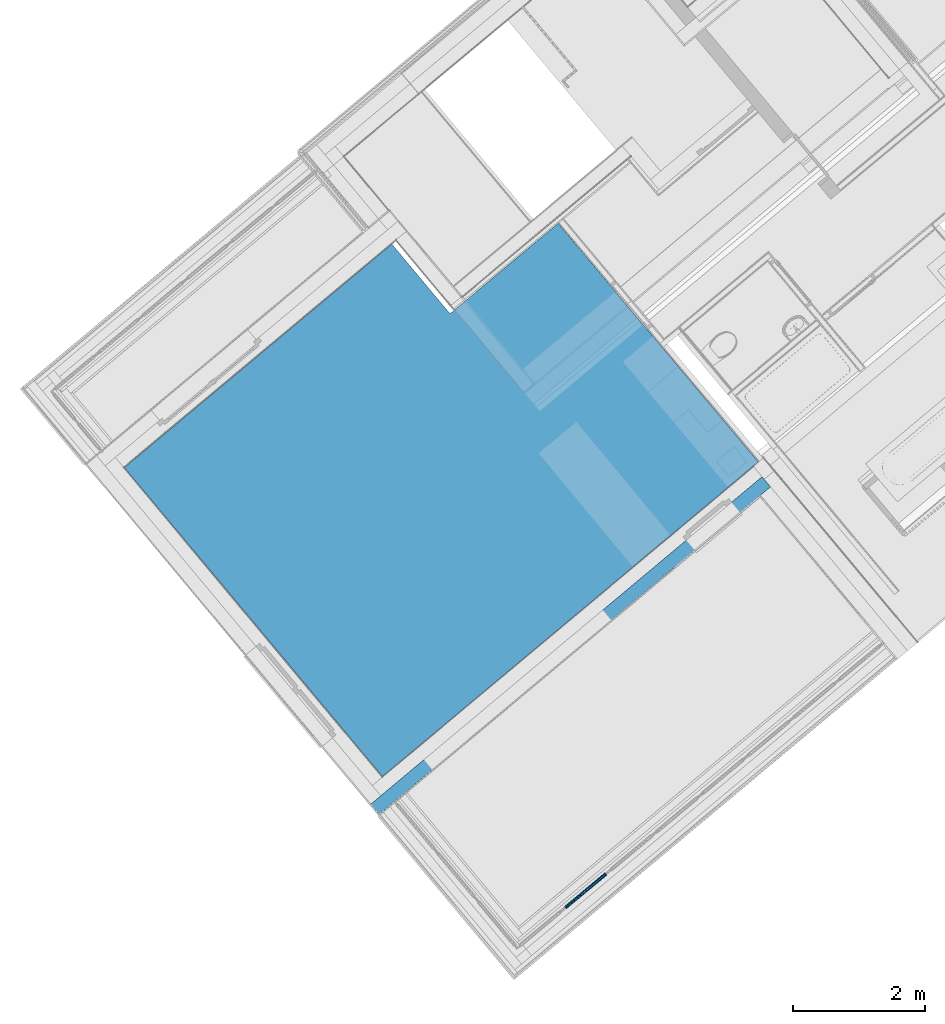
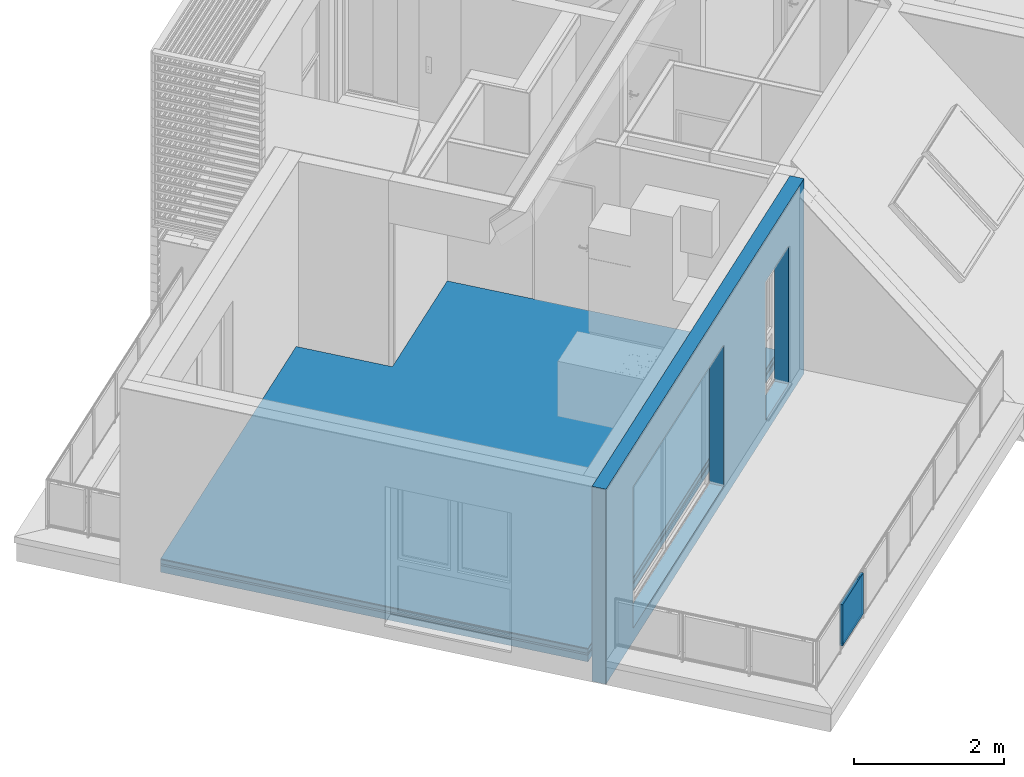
# One storey, part 12 of 47: 7 building element parts, 2 openings, 3 elements without a shape of their own.
"""IFC4 building model written with IfcOpenShell, lengths in metres."""

from ifc_helpers import new_model, entity, si_unit, converted_unit, derived_unit, direction, frame, origin_with_axes, place, context, subcontext, project, spatial, polygons, material, type_object, element, aggregate, save


model = new_model("IFC4")

# Units and contexts
model_context = context("Model", 3, precision=1e-05, world=origin_with_axes(), true_north=direction((0.0, 1.0)))
body_context = subcontext(model_context, "Body", "Model", "MODEL_VIEW")
ifc_project = project(units=[si_unit("LENGTHUNIT", "METRE"), si_unit("AREAUNIT", "SQUARE_METRE"), si_unit("VOLUMEUNIT", "CUBIC_METRE"), converted_unit("PLANEANGLEUNIT", "DEGREE", entity("IfcPlaneAngleMeasure", 0.0174532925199), si_unit("PLANEANGLEUNIT", "RADIAN"), dimensions=[0, 0, 0, 0, 0, 0, 0]), converted_unit("TIMEUNIT", "Year", entity("IfcTimeMeasure", 31556926.0), si_unit("TIMEUNIT", "SECOND"), dimensions=[0, 0, 1, 0, 0, 0, 0]), si_unit("MASSUNIT", "GRAM", prefix="KILO"), si_unit("THERMODYNAMICTEMPERATUREUNIT", "DEGREE_CELSIUS"), si_unit("LUMINOUSINTENSITYUNIT", "LUMEN"), si_unit("ENERGYUNIT", "JOULE", prefix="MEGA"), derived_unit("THERMALCONDUCTANCEUNIT", [(si_unit("POWERUNIT", "WATT"), 1), (si_unit("LENGTHUNIT", "METRE"), -1), (si_unit("THERMODYNAMICTEMPERATUREUNIT", "KELVIN"), -1)]), derived_unit("SPECIFICHEATCAPACITYUNIT", [(si_unit("ENERGYUNIT", "JOULE"), 1), (si_unit("MASSUNIT", "GRAM", prefix="KILO"), -1), (si_unit("THERMODYNAMICTEMPERATUREUNIT", "KELVIN"), -1)]), derived_unit("MASSDENSITYUNIT", [(si_unit("MASSUNIT", "GRAM", prefix="KILO"), 1), (si_unit("VOLUMEUNIT", "CUBIC_METRE"), -1)])], contexts=[model_context])

# Site, building, storey
site_placement = place(None, frame((-0.00153261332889, -0.00661245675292, 0.0), z_axis=(0.0, 0.0, 1.0), x_axis=(1.0, 0.0, 0.0)))
site = spatial("IfcSite", under=ifc_project, at=site_placement, Name="Site", CompositionType="ELEMENT")
building_placement = place(site_placement, origin_with_axes())
building = spatial("IfcBuilding", under=site, at=building_placement, Name="Building", CompositionType="ELEMENT")
storey_placement = place(building_placement, frame((0.0, 0.0, 8.66), z_axis=(0.0, 0.0, 1.0), x_axis=(1.0, 0.0, 0.0)))
storey = spatial("IfcBuildingStorey", under=building, at=storey_placement, Name="DG2", CompositionType="ELEMENT", Elevation=8.66)

# Wall, openings, building element part
wall_type = type_object("IfcWallType", Name="AW EG 420", PredefinedType="NOTDEFINED")
wall_placement = place(storey_placement, frame((2.62360758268, 17.5302621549, 0.0), z_axis=(0.0, 0.0, 1.0), x_axis=(-0.766948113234, -0.641709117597, 0.0)))
wall = element("IfcWall", 1, at=wall_placement, inside=storey, type_object=wall_type, Name="Wand-002", PredefinedType="NOTDEFINED")
opening_1_placement = place(wall_placement, frame((1.04736689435, 0.0, 0.22), z_axis=(0.0, 0.0, 1.0), x_axis=(1.0, 0.0, 0.0)))
element("IfcOpeningElement", 2, at=opening_1_placement, cuts=wall, Name="Fenster-001", context=body_context, identifier="Reference", shape_type="Tessellation", body=[
    polygons([(-0.45, -0.215, 0.0), (-0.45, -0.215, 2.26), (-0.45, 3.80153969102, 2.26), (-0.45, 3.80153969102, 0.0), (-0.45, -4.22153969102, 0.0), (-0.45, -4.22153969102, 2.26), (0.45, -0.215, 2.26), (0.45, 3.80153969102, 2.26), (0.45, -4.22153969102, 2.26), (0.45, 3.80153969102, 0.0), (0.45, -0.215, 0.0), (0.45, -4.22153969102, 0.0)], [[[1, 2, 3, 4]], [[2, 1, 5, 6]], [[7, 8, 3, 2, 6, 9]], [[8, 10, 4, 3]], [[1, 4, 10, 11, 12, 5]], [[6, 5, 12, 9]], [[7, 11, 10, 8]], [[11, 7, 9, 12]]], closed=True),
])
opening_2_placement = place(wall_placement, frame((4.89771327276, 0.0, 0.22), z_axis=(0.0, 0.0, 1.0), x_axis=(1.0, 0.0, 0.0)))
element("IfcOpeningElement", 3, at=opening_2_placement, cuts=wall, Name="Tür-001", context=body_context, identifier="Reference", shape_type="Tessellation", body=[
    polygons([(-1.76598893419, -0.215, 0.0), (-1.76598893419, -0.215, 2.31), (-1.76598893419, 3.80153969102, 2.31), (-1.76598893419, 3.80153969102, 0.0), (1.81598893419, -0.215, -0.22), (-1.81598893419, -0.215, -0.22), (-1.81598893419, -0.215, 2.36), (1.81598893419, -0.215, 2.36), (1.76598893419, -0.215, 2.31), (1.76598893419, -0.215, 0.0), (1.76598893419, 3.80153969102, 2.31), (1.76598893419, 3.80153969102, 0.0), (1.81598893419, -4.22153969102, -0.22), (-1.81598893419, -4.22153969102, -0.22), (-1.81598893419, -4.22153969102, 2.36), (1.81598893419, -4.22153969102, 2.36)], [[[1, 2, 3, 4]], [[5, 6, 7, 8], [9, 2, 1, 10]], [[2, 9, 11, 3]], [[11, 12, 4, 3]], [[10, 1, 4, 12]], [[6, 5, 13, 14]], [[7, 6, 14, 15]], [[8, 7, 15, 16]], [[5, 8, 16, 13]], [[9, 10, 12, 11]], [[15, 14, 13, 16]]], closed=True),
])
ifc_material_1 = material(Name="EPS 1")
building_element_part_1_placement = place(wall_placement, origin_with_axes())
building_element_part_1 = element("IfcBuildingElementPart", 4, at=building_element_part_1_placement, material=ifc_material_1, Name="EPS 1", PredefinedType="NOTDEFINED", context=body_context, shape_type="Tessellation", body=[
    polygons([(0.0, -0.215, 3.18), (0.0, -0.215, 0.0), (7.70706058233, -0.215, 0.0), (7.70706058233, -0.215, 3.18), (0.597366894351, -0.215, 0.22), (0.597366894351, -0.215, 2.48), (1.49736689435, -0.215, 2.48), (1.49736689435, -0.215, 0.22), (6.66370220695, -0.215, 0.22), (3.13172433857, -0.215, 0.22), (3.13172433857, -0.215, 2.53), (6.66370220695, -0.215, 2.53), (0.0, -0.0567421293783, 3.18), (0.0, -0.0567421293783, 0.0), (2.69186749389e-05, -0.015, 0.0), (7.7071908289, -0.015, 0.0), (7.7071908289, -0.015, 3.18), (2.69186749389e-05, -0.015, 3.18), (0.597366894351, -0.015, 2.48), (0.597366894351, -0.015, 0.22), (1.49736689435, -0.015, 2.48), (1.49736689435, -0.015, 0.22), (6.66370220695, -0.015, 0.22), (3.13172433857, -0.015, 0.22), (3.13172433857, -0.015, 2.53), (6.66370220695, -0.015, 2.53)], [[[1, 2, 3, 4], [5, 6, 7, 8], [9, 10, 11, 12]], [[13, 14, 2, 1]], [[15, 16, 3, 2, 14]], [[3, 16, 17, 4]], [[1, 4, 17, 18, 13]], [[19, 6, 5, 20]], [[21, 7, 6, 19]], [[22, 8, 7, 21]], [[20, 5, 8, 22]], [[23, 24, 10, 9]], [[24, 25, 11, 10]], [[25, 26, 12, 11]], [[26, 23, 9, 12]], [[18, 15, 14, 13]], [[15, 18, 17, 16], [21, 19, 20, 22], [23, 26, 25, 24]]], closed=True),
])
aggregate(wall, [building_element_part_1])

# Covering, building element parts
covering_type = type_object("IfcCoveringType", Name="DE 01 Decke Wohnung/Wohnung Parkett 220", PredefinedType="NOTDEFINED")
covering_placement = place(storey_placement, frame((-3.24610937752, 13.1666672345, 0.22), z_axis=(0.0, 0.0, 1.0), x_axis=(1.0, 0.0, 0.0)))
covering = element("IfcCovering", 5, at=covering_placement, inside=storey, type_object=covering_type, Name="Decke-008", PredefinedType="NOTDEFINED")
ifc_material_2 = material(Name="Parkett")
building_element_part_2_placement = place(covering_placement, origin_with_axes())
building_element_part_2 = element("IfcBuildingElementPart", 6, at=building_element_part_2_placement, material=ifc_material_2, Name="Parkett", PredefinedType="NOTDEFINED", context=body_context, shape_type="Tessellation", body=[
    polygons([(4.22967471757, 6.47672617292, -0.015), (4.22967471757, 6.47672617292, 0.0), (5.67740575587, 4.75031227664, 0.0), (5.67740575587, 4.75031227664, -0.015), (2.65324989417, 8.35637248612, 0.0), (2.65324989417, 8.35637248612, -0.015), (1.0194511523, 6.99133996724, 0.0), (0.140463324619, 8.04326639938, 0.0), (-3.89987576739, 4.66716634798, 0.0), (0.0, 0.0, 0.0), (0.0, 0.0, -0.015), (-3.89987576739, 4.66716634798, -0.015), (0.140463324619, 8.04326639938, -0.015), (1.0194511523, 6.99133996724, -0.015)], [[[1, 2, 3, 4]], [[5, 2, 1, 6]], [[2, 5, 7, 8, 9, 10, 3]], [[3, 10, 11, 4]], [[6, 1, 4, 11, 12, 13, 14]], [[5, 6, 14, 7]], [[8, 7, 14, 13]], [[9, 8, 13, 12]], [[10, 9, 12, 11]]], closed=True),
])
ifc_material_3 = material(Name="Estrich")
building_element_part_3_placement = place(covering_placement, origin_with_axes())
building_element_part_3 = element("IfcBuildingElementPart", 7, at=building_element_part_3_placement, material=ifc_material_3, Name="Estrich", PredefinedType="NOTDEFINED", context=body_context, shape_type="Tessellation", body=[
    polygons([(4.22967471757, 6.47672617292, -0.08), (4.22967471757, 6.47672617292, -0.015), (5.67740575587, 4.75031227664, -0.015), (5.67740575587, 4.75031227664, -0.08), (2.65324989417, 8.35637248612, -0.015), (2.65324989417, 8.35637248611, -0.08), (1.0194511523, 6.99133996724, -0.015), (0.140463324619, 8.04326639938, -0.015), (-3.89987576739, 4.66716634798, -0.015), (0.0, 0.0, -0.015), (0.0, 0.0, -0.08), (-3.89987576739, 4.66716634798, -0.08), (0.140463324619, 8.04326639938, -0.08), (1.0194511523, 6.99133996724, -0.08)], [[[1, 2, 3, 4]], [[5, 2, 1, 6]], [[2, 5, 7, 8, 9, 10, 3]], [[3, 10, 11, 4]], [[6, 1, 4, 11, 12, 13, 14]], [[5, 6, 14, 7]], [[8, 7, 14, 13]], [[9, 8, 13, 12]], [[10, 9, 12, 11]]], closed=True),
])
ifc_material_4 = material(Name="Trittschalldämmung")
building_element_part_4_placement = place(covering_placement, origin_with_axes())
building_element_part_4 = element("IfcBuildingElementPart", 8, at=building_element_part_4_placement, material=ifc_material_4, Name="Trittschalldämmung", PredefinedType="NOTDEFINED", context=body_context, shape_type="Tessellation", body=[
    polygons([(4.22967471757, 6.47672617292, -0.11), (4.22967471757, 6.47672617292, -0.08), (5.67740575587, 4.75031227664, -0.08), (5.67740575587, 4.75031227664, -0.11), (2.65324989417, 8.35637248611, -0.08), (2.65324989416, 8.35637248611, -0.11), (1.0194511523, 6.99133996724, -0.08), (0.140463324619, 8.04326639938, -0.08), (-3.89987576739, 4.66716634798, -0.08), (0.0, 0.0, -0.08), (0.0, 0.0, -0.11), (-3.89987576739, 4.66716634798, -0.11), (0.140463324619, 8.04326639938, -0.11), (1.0194511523, 6.99133996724, -0.11)], [[[1, 2, 3, 4]], [[5, 2, 1, 6]], [[2, 5, 7, 8, 9, 10, 3]], [[3, 10, 11, 4]], [[6, 1, 4, 11, 12, 13, 14]], [[5, 6, 14, 7]], [[8, 7, 14, 13]], [[9, 8, 13, 12]], [[10, 9, 12, 11]]], closed=True),
])
ifc_material_5 = material(Name="Schüttung")
building_element_part_5_placement = place(covering_placement, origin_with_axes())
building_element_part_5 = element("IfcBuildingElementPart", 9, at=building_element_part_5_placement, material=ifc_material_5, Name="Schüttung", PredefinedType="NOTDEFINED", context=body_context, shape_type="Tessellation", body=[
    polygons([(4.22967471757, 6.47672617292, -0.22), (4.22967471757, 6.47672617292, -0.11), (5.67740575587, 4.75031227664, -0.11), (5.67740575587, 4.75031227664, -0.22), (2.65324989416, 8.35637248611, -0.11), (2.65324989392, 8.35637248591, -0.22), (1.0194511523, 6.99133996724, -0.11), (0.140463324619, 8.04326639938, -0.11), (-3.89987576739, 4.66716634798, -0.11), (0.0, 0.0, -0.11), (0.0, 0.0, -0.22), (-3.89987576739, 4.66716634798, -0.22), (0.140463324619, 8.04326639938, -0.22), (1.0194511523, 6.99133996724, -0.22)], [[[1, 2, 3, 4]], [[5, 2, 1, 6]], [[2, 5, 7, 8, 9, 10, 3]], [[4, 3, 10, 11]], [[6, 1, 4, 11, 12, 13, 14]], [[5, 6, 14, 7]], [[13, 8, 7, 14]], [[12, 9, 8, 13]], [[11, 10, 9, 12]]], closed=True),
])
aggregate(covering, [building_element_part_2, building_element_part_3, building_element_part_4, building_element_part_5])

# Railing, building element parts
railing_type = type_object("IfcRailingType", Name="Geländerart", PredefinedType="NOTDEFINED")
railing_placement = place(storey_placement, frame((-3.01466342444, 12.8116891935, 0.38), z_axis=(0.0, 0.0, 1.0), x_axis=(1.0, 0.0, 0.0)))
railing = element("IfcRailing", 10, at=railing_placement, inside=storey, type_object=railing_type, Name="Geländer - 001", PredefinedType="NOTDEFINED")
ifc_material_6 = material(Name="Profilit")
building_element_part_6_placement = place(railing_placement, origin_with_axes())
building_element_part_6 = element("IfcBuildingElementPart", 11, at=building_element_part_6_placement, material=ifc_material_6, Name="Profilit", PredefinedType="NOTDEFINED", context=body_context, shape_type="Tessellation", body=[
    polygons([(3.12500467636, -1.115739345, 0.135), (2.53466859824, -1.60738991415, 0.135), (2.53466859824, -1.60738991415, 0.775), (3.12500467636, -1.115739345, 0.775), (2.54746773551, -1.62275813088, 0.135), (3.13780381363, -1.13110756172, 0.135), (2.54746773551, -1.62275813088, 0.775), (3.13780381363, -1.13110756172, 0.775)], [[[1, 2, 3, 4]], [[5, 2, 1, 6]], [[7, 3, 2, 5]], [[4, 3, 7, 8]], [[1, 4, 8, 6]], [[7, 5, 6, 8]]], closed=True),
])
ifc_material_7 = material(Name="Aluminium")
building_element_part_7_placement = place(railing_placement, origin_with_axes())
building_element_part_7 = element("IfcBuildingElementPart", 12, at=building_element_part_7_placement, material=ifc_material_7, Name="Aluminium", PredefinedType="NOTDEFINED", context=body_context, shape_type="Tessellation", body=[
    polygons([(2.60478319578, -1.55875666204, 0.12), (2.65857195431, -1.5139596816, 0.12), (2.65857195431, -1.5139596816, 0.095), (2.60478319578, -1.55875666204, 0.095), (2.6079829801, -1.56259871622, 0.12), (2.66177173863, -1.51780173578, 0.12), (2.66177173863, -1.51780173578, 0.095), (2.6079829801, -1.56259871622, 0.095)], [[[1, 2, 3, 4]], [[5, 6, 2, 1]], [[2, 6, 7, 3]], [[4, 3, 7, 8]], [[1, 4, 8, 5]], [[8, 7, 6, 5]]], closed=True),
    polygons([(3.06448943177, -1.17589875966, 0.79), (3.01070067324, -1.22069574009, 0.79), (3.01070067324, -1.22069574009, 0.795), (3.06448943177, -1.17589875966, 0.795), (3.06768921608, -1.17974081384, 0.79), (3.01390045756, -1.22453779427, 0.79), (3.01390045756, -1.22453779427, 0.795), (3.06768921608, -1.17974081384, 0.795)], [[[1, 2, 3, 4]], [[5, 6, 2, 1]], [[2, 6, 7, 3]], [[4, 3, 7, 8]], [[1, 4, 8, 5]], [[8, 7, 6, 5]]], closed=True),
    polygons([(2.54554092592, -1.64388364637, 0.12), (2.51354308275, -1.60546310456, 0.12), (3.12693148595, -1.09461382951, 0.12), (3.15892932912, -1.13303437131, 0.12), (2.56090914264, -1.6310845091, 0.14), (2.55130978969, -1.61955834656, 0.14), (2.54746773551, -1.62275813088, 0.135), (2.53466859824, -1.60738991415, 0.135), (2.53851065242, -1.60419012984, 0.14), (2.52891129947, -1.5926639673, 0.14), (3.11156326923, -1.10741296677, 0.14), (3.11156326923, -1.10741296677, 0.77), (2.52891129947, -1.5926639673, 0.77), (2.52891129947, -1.5926639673, 0.14), (2.51354308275, -1.60546310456, 0.12), (2.51354308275, -1.60546310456, 0.79), (3.12693148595, -1.09461382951, 0.79), (3.15892932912, -1.13303437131, 0.79), (2.54554092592, -1.64388364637, 0.79), (2.54554092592, -1.64388364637, 0.12), (2.56090914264, -1.6310845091, 0.14), (2.56090914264, -1.6310845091, 0.77), (3.1435611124, -1.14583350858, 0.77), (3.1435611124, -1.14583350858, 0.14), (3.13396175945, -1.13430734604, 0.14), (3.13396175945, -1.13430734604, 0.77), (2.55130978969, -1.61955834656, 0.77), (2.55130978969, -1.61955834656, 0.14), (2.54746773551, -1.62275813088, 0.135), (2.54746773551, -1.62275813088, 0.775), (3.13780381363, -1.13110756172, 0.775), (3.13780381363, -1.13110756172, 0.135), (3.12500467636, -1.115739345, 0.135), (3.12500467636, -1.115739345, 0.775), (2.53466859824, -1.60738991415, 0.775), (2.53466859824, -1.60738991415, 0.135), (2.53851065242, -1.60419012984, 0.14), (2.53851065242, -1.60419012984, 0.77), (3.12116262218, -1.11893912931, 0.77), (3.12116262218, -1.11893912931, 0.14)], [[[1, 2, 3, 4]], [[1, 5, 6, 7, 8, 9, 10, 2]], [[2, 10, 11, 12, 13, 14, 15, 16, 17, 3]], [[4, 3, 17, 18]], [[5, 1, 4, 18, 19, 20, 21, 22, 23, 24]], [[6, 5, 24, 25]], [[7, 6, 25, 26, 27, 28, 29, 30, 31, 32]], [[8, 7, 32, 33]], [[9, 8, 33, 34, 35, 36, 37, 38, 39, 40]], [[10, 9, 40, 11]], [[11, 40, 39, 12]], [[12, 39, 38, 13]], [[13, 38, 37, 14]], [[20, 15, 14, 37, 36, 29, 28, 21]], [[19, 16, 15, 20]], [[18, 17, 16, 19]], [[27, 22, 21, 28]], [[26, 23, 22, 27]], [[25, 24, 23, 26]], [[35, 30, 29, 36]], [[34, 31, 30, 35]], [[33, 32, 31, 34]]], closed=True),
])
aggregate(railing, [building_element_part_6, building_element_part_7])

save(model, "model.ifc")
